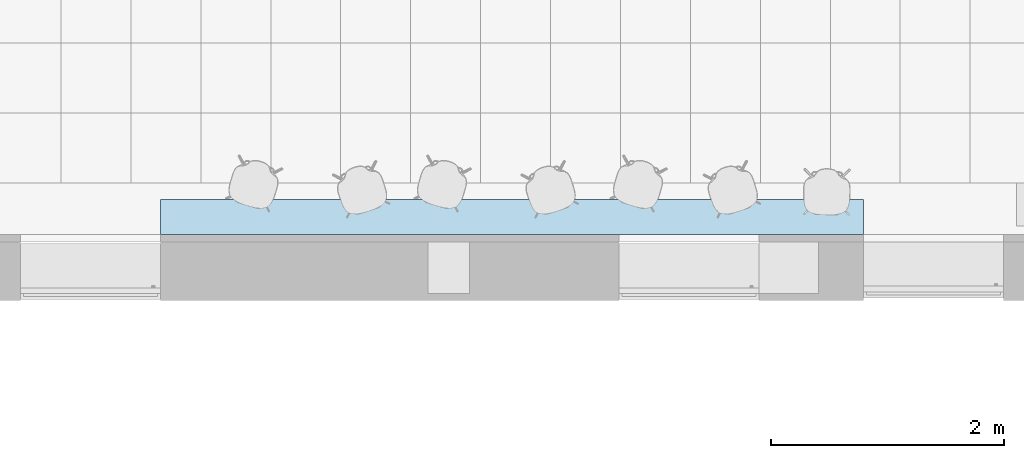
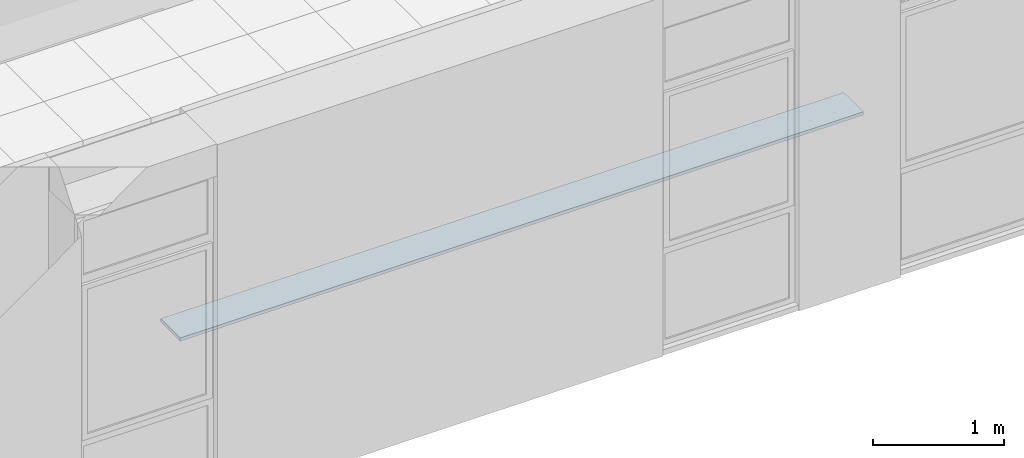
# One storey, part 5 of 68: 1 slab.
"""IFC2X3 building model written with IfcOpenShell, lengths in millimetres."""

from ifc_helpers import new_model, entity, si_unit, converted_unit, derived_unit, money_unit, direction, frame, origin_with_axes, place, context, subcontext, project, spatial, polyline, outline, extrude, material, layer, layer_set, layer_usage, type_object, element, save


model = new_model("IFC2X3")

# Units and contexts
model_context = context("Model", 3, precision=0.01, world=origin_with_axes(), true_north=direction((0.0, 1.0)))
body_context = subcontext(model_context, "Body", "Model", "MODEL_VIEW")
ifc_project = project(units=[si_unit("LENGTHUNIT", "METRE", prefix="MILLI"), si_unit("AREAUNIT", "SQUARE_METRE"), si_unit("VOLUMEUNIT", "CUBIC_METRE"), converted_unit("PLANEANGLEUNIT", "DEGREE", entity("IfcPlaneAngleMeasure", 0.0174532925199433), si_unit("PLANEANGLEUNIT", "RADIAN"), dimensions=[0, 0, 0, 0, 0, 0, 0]), money_unit("USD"), converted_unit("TIMEUNIT", "Year", entity("IfcTimeMeasure", 31557600.0), si_unit("TIMEUNIT", "SECOND"), dimensions=[0, 0, 1, 0, 0, 0, 0]), si_unit("MASSUNIT", "GRAM", prefix="KILO"), si_unit("THERMODYNAMICTEMPERATUREUNIT", "DEGREE_CELSIUS"), si_unit("LUMINOUSINTENSITYUNIT", "LUMEN"), si_unit("ENERGYUNIT", "JOULE", prefix="MEGA"), derived_unit("THERMALCONDUCTANCEUNIT", [(si_unit("POWERUNIT", "WATT"), 1), (si_unit("LENGTHUNIT", "METRE"), -1), (si_unit("THERMODYNAMICTEMPERATUREUNIT", "KELVIN"), -1)]), derived_unit("SPECIFICHEATCAPACITYUNIT", [(si_unit("ENERGYUNIT", "JOULE"), 1), (si_unit("MASSUNIT", "GRAM", prefix="KILO"), -1), (si_unit("THERMODYNAMICTEMPERATUREUNIT", "KELVIN"), -1)]), derived_unit("MASSDENSITYUNIT", [(si_unit("MASSUNIT", "GRAM", prefix="KILO"), 1), (si_unit("VOLUMEUNIT", "CUBIC_METRE"), -1)])], contexts=[model_context])

# Site, building, storey
site_placement = place(None, origin_with_axes())
site = spatial("IfcSite", under=ifc_project, at=site_placement, Name="Sitio", CompositionType="ELEMENT")
building_placement = place(site_placement, origin_with_axes())
building = spatial("IfcBuilding", under=site, at=building_placement, Name="Construcción", CompositionType="ELEMENT")
storey_placement = place(building_placement, origin_with_axes())
storey = spatial("IfcBuildingStorey", under=building, at=storey_placement, Name="PLANTA 1ª", CompositionType="ELEMENT", Elevation=0.0)

# Slab
ifc_material = material(Name="ARQ_FU091_HPL")
ifc_layer = layer(ifc_material, 30.0, ventilated="UNKNOWN")
ifc_layer_set = layer_set([ifc_layer], Name="ARQ_FU091_HPL 30")
ifc_layer_usage = layer_usage(ifc_layer_set, "AXIS3", "NEGATIVE", 30.0)
slab_type = type_object("IfcSlabType", Name="ARQ_FU091_HPL 30", PredefinedType="NOTDEFINED")
slab_placement = place(storey_placement, frame((-18136.43135579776, -1128.975823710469, 1200.0), z_axis=(0.0, 0.0, 1.0), x_axis=(1.0, 0.0, 0.0)))
element("IfcSlab", 1, at=slab_placement, inside=storey, type_object=slab_type, material=ifc_layer_usage, Name="SLA - 029", PredefinedType="NOTDEFINED", context=body_context, shape_type="SweptSolid", body=[
    extrude(outline(polyline([(0.0, 0.0), (0.0, 300.0000000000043), (-6029.999999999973, 300.0000000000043), (-6029.999999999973, 0.0), (0.0, 0.0)])), frame((0.0, 0.0, -30.0), z_axis=(0.0, 0.0, 1.0), x_axis=(1.0, 0.0, 0.0)), (0.0, 0.0, 1.0), 30.0),
])

save(model, "model.ifc")
